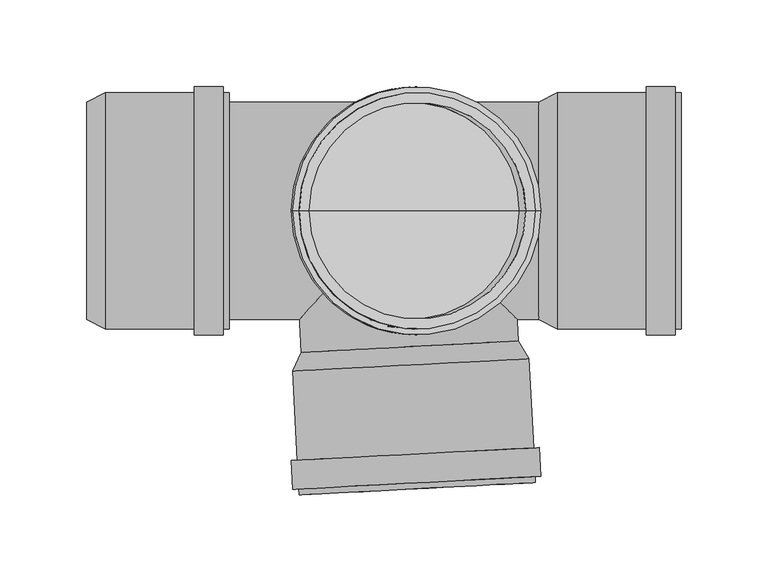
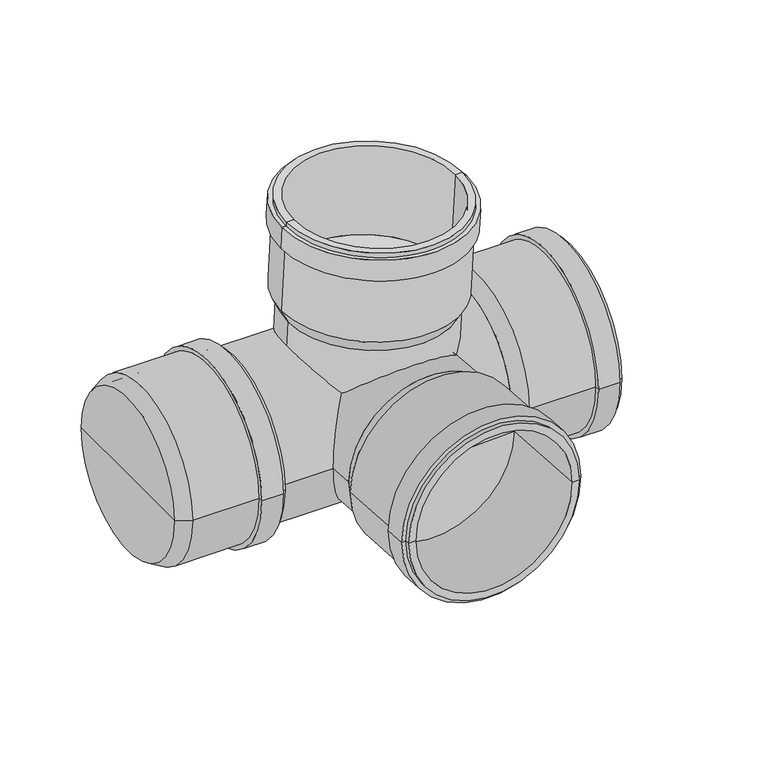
"""IFC4 building model written with IfcOpenShell, lengths in millimetres: pipe fitting geometry, pf_HTED : pf_HTED."""

from ifc_helpers import new_model, si_unit, point, frame, origin, origin_2d, place, context, project, spatial, polyline, circle_curve, trimmed, segment, composite_curve, outline, extrude, source, transform, mapped, element, save
from ifc_brep_helpers import plane_surface, cylinder_surface, revolved_surface, advanced_brep


def pipe_fitting_466a4f67(model_context):
    return source(origin(), model_context, "Body", "SolidModel", [
        advanced_brep(
        [(66.5174849, 0.0, 75.0215583), (-58.311207, 0.0, 81.5635528), (-63.3540048, 0.0, 92.3422443), (72.6593378, 0.0, 85.214087), (4.103139, 0.0, 78.2925555), (76.4013587, 0.0, 156.6160988), (-59.6119839, 0.0, 163.744256), (-54.0196585, 0.0, 163.4511746), (70.8090333, 0.0, 156.9091801), (76.2234164, 0.0, 153.2207583), (-59.7899262, 0.0, 160.3489156), (79.6187569, 0.0, 153.0428161), (-63.1852666, 0.0, 160.5268578), (78.74998, 0.0, 136.4655658), (-64.0540435, 0.0, 143.9496076), (75.3546396, 0.0, 136.6435081), (-60.6587031, 0.0, 143.7716653), (67.0670124, 0.0, 85.5071684), (-57.7616794, 0.0, 92.0491629), (4.6526665, 0.0, 88.7781656)],
        [
            (0, 1, circle_curve(frame((4.103139, 0.0, 78.2925555), z_axis=(0.052335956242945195, 0.0, 0.9986295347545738), x_axis=(-0.9986295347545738, 0.0, 0.052335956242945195)), 62.5)),
            (1, 2),
            (2, 3, circle_curve(frame((4.6526665, 0.0, 88.7781656), z_axis=(-0.052335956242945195, 0.0, -0.9986295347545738), x_axis=(-0.9986295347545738, 0.0, 0.052335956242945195)), 68.1)),
            (3, 0),
            (1, 0, circle_curve(frame((4.103139, 0.0, 78.2925555), z_axis=(0.052335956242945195, 0.0, 0.9986295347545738), x_axis=(-0.9986295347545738, 0.0, 0.052335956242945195)), 62.5)),
            (3, 2, circle_curve(frame((4.6526665, 0.0, 88.7781656), z_axis=(-0.052335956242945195, 0.0, -0.9986295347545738), x_axis=(-0.9986295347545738, 0.0, 0.052335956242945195)), 68.1)),
            (4, 1),
            (0, 4),
            (5, 6, circle_curve(frame((8.3946874, 0.0, 160.1801774), z_axis=(0.052335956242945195, 0.0, 0.9986295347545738), x_axis=(-0.9986295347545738, 0.0, 0.052335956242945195)), 68.1)),
            (6, 7),
            (7, 8, circle_curve(frame((8.3946874, 0.0, 160.1801774), z_axis=(-0.052335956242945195, 0.0, -0.9986295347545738), x_axis=(-0.9986295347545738, 0.0, 0.052335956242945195)), 62.5)),
            (8, 5),
            (6, 5, circle_curve(frame((8.3946874, 0.0, 160.1801774), z_axis=(0.052335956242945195, 0.0, 0.9986295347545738), x_axis=(-0.9986295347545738, 0.0, 0.052335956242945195)), 68.1)),
            (8, 7, circle_curve(frame((8.3946874, 0.0, 160.1801774), z_axis=(-0.052335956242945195, 0.0, -0.9986295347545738), x_axis=(-0.9986295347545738, 0.0, 0.052335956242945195)), 62.5)),
            (9, 10, circle_curve(frame((8.2167451, 0.0, 156.784837), z_axis=(0.052335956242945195, 0.0, 0.9986295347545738), x_axis=(-0.9986295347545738, 0.0, 0.052335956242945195)), 68.1)),
            (10, 6),
            (5, 9),
            (10, 9, circle_curve(frame((8.2167451, 0.0, 156.784837), z_axis=(0.052335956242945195, 0.0, 0.9986295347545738), x_axis=(-0.9986295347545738, 0.0, 0.052335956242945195)), 68.1)),
            (11, 12, circle_curve(frame((8.2167451, 0.0, 156.784837), z_axis=(0.052335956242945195, 0.0, 0.9986295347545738), x_axis=(-0.9986295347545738, 0.0, 0.052335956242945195)), 71.5)),
            (12, 10),
            (9, 11),
            (12, 11, circle_curve(frame((8.2167451, 0.0, 156.784837), z_axis=(0.052335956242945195, 0.0, 0.9986295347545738), x_axis=(-0.9986295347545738, 0.0, 0.052335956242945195)), 71.5)),
            (13, 14, circle_curve(frame((7.3479683, 0.0, 140.2075867), z_axis=(0.052335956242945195, 0.0, 0.9986295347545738), x_axis=(-0.9986295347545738, 0.0, 0.052335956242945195)), 71.5)),
            (14, 12),
            (11, 13),
            (14, 13, circle_curve(frame((7.3479683, 0.0, 140.2075867), z_axis=(0.052335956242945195, 0.0, 0.9986295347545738), x_axis=(-0.9986295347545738, 0.0, 0.052335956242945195)), 71.5)),
            (15, 16, circle_curve(frame((7.3479683, 0.0, 140.2075867), z_axis=(0.052335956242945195, 0.0, 0.9986295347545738), x_axis=(-0.9986295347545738, 0.0, 0.052335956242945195)), 68.1)),
            (16, 14),
            (13, 15),
            (16, 15, circle_curve(frame((7.3479683, 0.0, 140.2075867), z_axis=(0.052335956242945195, 0.0, 0.9986295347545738), x_axis=(-0.9986295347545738, 0.0, 0.052335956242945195)), 68.1)),
            (2, 16),
            (15, 3),
            (17, 18, circle_curve(frame((4.6526665, 0.0, 88.7781656), z_axis=(0.052335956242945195, 0.0, 0.9986295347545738), x_axis=(-0.9986295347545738, 0.0, 0.052335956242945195)), 62.5)),
            (18, 19),
            (19, 17),
            (18, 17, circle_curve(frame((4.6526665, 0.0, 88.7781656), z_axis=(0.052335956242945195, 0.0, 0.9986295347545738), x_axis=(-0.9986295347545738, 0.0, 0.052335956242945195)), 62.5)),
            (7, 18),
            (17, 8),
        ],
        [
            revolved_surface(polyline([(-63.3540048, 0.0, 92.3422443), (-58.311207, 0.0, 81.5635528)]), (4.103139, 0.0, 78.2925555), (-0.052335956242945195, 0.0, -0.9986295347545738)),
            plane_surface(frame((4.103139, 0.0, 78.2925555), z_axis=(-0.052335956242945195, 0.0, -0.9986295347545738), x_axis=(-0.9986295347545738, 0.0, 0.052335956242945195))),
            plane_surface(frame((8.3946874, 0.0, 160.1801774), z_axis=(0.052335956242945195, 0.0, 0.9986295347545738), x_axis=(-0.9986295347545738, 0.0, 0.052335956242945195))),
            cylinder_surface(frame((4.103139, 0.0, 78.2925555), z_axis=(-0.052335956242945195, 0.0, -0.9986295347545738), x_axis=(-0.9986295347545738, 0.0, 0.052335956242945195)), 68.1),
            plane_surface(frame((8.2167451, 0.0, 156.784837), z_axis=(0.052335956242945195, 0.0, 0.9986295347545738), x_axis=(-0.9986295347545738, 0.0, 0.052335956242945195))),
            cylinder_surface(frame((4.103139, 0.0, 78.2925555), z_axis=(-0.052335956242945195, 0.0, -0.9986295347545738), x_axis=(-0.9986295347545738, 0.0, 0.052335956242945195)), 71.5),
            plane_surface(frame((7.3479683, 0.0, 140.2075867), z_axis=(-0.052335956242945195, 0.0, -0.9986295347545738), x_axis=(-0.9986295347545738, 0.0, 0.052335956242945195))),
            plane_surface(frame((4.6526665, 0.0, 88.7781656), z_axis=(0.052335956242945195, 0.0, 0.9986295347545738), x_axis=(-0.9986295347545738, 0.0, 0.052335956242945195))),
            revolved_surface(polyline([(-57.76167938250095, 0.0, 92.04916286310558), (-54.01965850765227, 0.0, 163.45117466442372)]), (4.103139, 0.0, 78.2925555), (-0.052335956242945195, 0.0, -0.9986295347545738)),
        ],
        [
            (0, [[1, 2, 3, 4]]),
            (0, [[5, -4, 6, -2]]),
            (1, [[7, -1, 8]]),
            (1, [[-8, -5, -7]]),
            (2, [[9, 10, 11, 12]]),
            (2, [[13, -12, 14, -10]]),
            (3, [[15, 16, -9, 17]]),
            (3, [[18, -17, -13, -16]]),
            (4, [[19, 20, -15, 21]]),
            (4, [[22, -21, -18, -20]]),
            (5, [[23, 24, -19, 25]]),
            (5, [[26, -25, -22, -24]]),
            (6, [[27, 28, -23, 29]]),
            (6, [[30, -29, -26, -28]]),
            (3, [[-3, 31, -27, 32]]),
            (3, [[-6, -32, -30, -31]]),
            (7, [[33, 34, 35]]),
            (7, [[36, -35, -34]]),
            (8, [[-11, 37, -33, 38]]),
            (8, [[-14, -38, -36, -37]]),
        ],
    ),
        advanced_brep(
        [(-58.311207, -81.5635528, 0.0), (66.5174849, -75.0215583, 0.0), (72.6593378, -85.214087, 0.0), (-63.3540048, -92.3422443, 0.0), (4.103139, -78.2925555, 0.0), (-59.6119839, -163.744256, 0.0), (76.4013587, -156.6160988, 0.0), (70.8090333, -156.9091801, 0.0), (-54.0196585, -163.4511746, 0.0), (-59.7899262, -160.3489156, 0.0), (76.2234164, -153.2207583, 0.0), (-63.1852666, -160.5268578, 0.0), (79.6187569, -153.0428161, 0.0), (-64.0540435, -143.9496076, 0.0), (78.74998, -136.4655658, 0.0), (-60.6587031, -143.7716653, 0.0), (75.3546396, -136.6435081, 0.0), (-57.7616794, -92.0491629, 0.0), (67.0670124, -85.5071684, 0.0), (4.6526665, -88.7781656, 0.0)],
        [
            (0, 1, circle_curve(frame((4.103139, -78.2925555, 0.0), z_axis=(0.05233595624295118, -0.9986295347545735, 0.0), x_axis=(0.9986295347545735, 0.05233595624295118, 0.0)), 62.5)),
            (1, 2),
            (2, 3, circle_curve(frame((4.6526665, -88.7781656, 0.0), z_axis=(-0.05233595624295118, 0.9986295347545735, 0.0), x_axis=(0.9986295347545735, 0.05233595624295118, 0.0)), 68.1)),
            (3, 0),
            (1, 0, circle_curve(frame((4.103139, -78.2925555, 0.0), z_axis=(0.05233595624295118, -0.9986295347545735, 0.0), x_axis=(0.9986295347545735, 0.05233595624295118, 0.0)), 62.5)),
            (3, 2, circle_curve(frame((4.6526665, -88.7781656, 0.0), z_axis=(-0.05233595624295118, 0.9986295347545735, 0.0), x_axis=(0.9986295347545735, 0.05233595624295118, 0.0)), 68.1)),
            (4, 1),
            (0, 4),
            (5, 6, circle_curve(frame((8.3946874, -160.1801774, 0.0), z_axis=(0.05233595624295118, -0.9986295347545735, 0.0), x_axis=(0.9986295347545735, 0.05233595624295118, 0.0)), 68.1)),
            (6, 7),
            (7, 8, circle_curve(frame((8.3946874, -160.1801774, 0.0), z_axis=(-0.05233595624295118, 0.9986295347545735, 0.0), x_axis=(0.9986295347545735, 0.05233595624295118, 0.0)), 62.5)),
            (8, 5),
            (6, 5, circle_curve(frame((8.3946874, -160.1801774, 0.0), z_axis=(0.05233595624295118, -0.9986295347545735, 0.0), x_axis=(0.9986295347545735, 0.05233595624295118, 0.0)), 68.1)),
            (8, 7, circle_curve(frame((8.3946874, -160.1801774, 0.0), z_axis=(-0.05233595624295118, 0.9986295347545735, 0.0), x_axis=(0.9986295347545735, 0.05233595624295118, 0.0)), 62.5)),
            (9, 10, circle_curve(frame((8.2167451, -156.784837, 0.0), z_axis=(0.05233595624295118, -0.9986295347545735, 0.0), x_axis=(0.9986295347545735, 0.05233595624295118, 0.0)), 68.1)),
            (10, 6),
            (5, 9),
            (10, 9, circle_curve(frame((8.2167451, -156.784837, 0.0), z_axis=(0.05233595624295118, -0.9986295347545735, 0.0), x_axis=(0.9986295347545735, 0.05233595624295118, 0.0)), 68.1)),
            (11, 12, circle_curve(frame((8.2167451, -156.784837, 0.0), z_axis=(0.05233595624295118, -0.9986295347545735, 0.0), x_axis=(0.9986295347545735, 0.05233595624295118, 0.0)), 71.5)),
            (12, 10),
            (9, 11),
            (12, 11, circle_curve(frame((8.2167451, -156.784837, 0.0), z_axis=(0.05233595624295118, -0.9986295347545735, 0.0), x_axis=(0.9986295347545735, 0.05233595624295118, 0.0)), 71.5)),
            (13, 14, circle_curve(frame((7.3479683, -140.2075867, 0.0), z_axis=(0.05233595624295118, -0.9986295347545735, 0.0), x_axis=(0.9986295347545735, 0.05233595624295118, 0.0)), 71.5)),
            (14, 12),
            (11, 13),
            (14, 13, circle_curve(frame((7.3479683, -140.2075867, 0.0), z_axis=(0.05233595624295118, -0.9986295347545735, 0.0), x_axis=(0.9986295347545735, 0.05233595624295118, 0.0)), 71.5)),
            (15, 16, circle_curve(frame((7.3479683, -140.2075867, 0.0), z_axis=(0.05233595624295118, -0.9986295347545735, 0.0), x_axis=(0.9986295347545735, 0.05233595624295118, 0.0)), 68.1)),
            (16, 14),
            (13, 15),
            (16, 15, circle_curve(frame((7.3479683, -140.2075867, 0.0), z_axis=(0.05233595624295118, -0.9986295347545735, 0.0), x_axis=(0.9986295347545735, 0.05233595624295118, 0.0)), 68.1)),
            (2, 16),
            (15, 3),
            (17, 18, circle_curve(frame((4.6526665, -88.7781656, 0.0), z_axis=(0.05233595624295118, -0.9986295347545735, 0.0), x_axis=(0.9986295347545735, 0.05233595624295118, 0.0)), 62.5)),
            (18, 19),
            (19, 17),
            (18, 17, circle_curve(frame((4.6526665, -88.7781656, 0.0), z_axis=(0.05233595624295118, -0.9986295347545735, 0.0), x_axis=(0.9986295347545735, 0.05233595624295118, 0.0)), 62.5)),
            (7, 18),
            (17, 8),
        ],
        [
            revolved_surface(polyline([(72.6593378, -85.214087, 0.0), (66.5174849, -75.0215583, 0.0)]), (4.103139, -78.2925555, 0.0), (-0.05233595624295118, 0.9986295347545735, 0.0)),
            plane_surface(frame((4.103139, -78.2925555, 0.0), z_axis=(-0.05233595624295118, 0.9986295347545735, 0.0), x_axis=(0.9986295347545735, 0.05233595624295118, 0.0))),
            plane_surface(frame((8.3946874, -160.1801774, 0.0), z_axis=(0.05233595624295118, -0.9986295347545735, 0.0), x_axis=(0.9986295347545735, 0.05233595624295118, 0.0))),
            cylinder_surface(frame((4.103139, -78.2925555, 0.0), z_axis=(-0.05233595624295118, 0.9986295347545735, 0.0), x_axis=(0.9986295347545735, 0.05233595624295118, 0.0)), 68.1),
            plane_surface(frame((8.2167451, -156.784837, 0.0), z_axis=(0.05233595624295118, -0.9986295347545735, 0.0), x_axis=(0.9986295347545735, 0.05233595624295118, 0.0))),
            cylinder_surface(frame((4.103139, -78.2925555, 0.0), z_axis=(-0.05233595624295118, 0.9986295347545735, 0.0), x_axis=(0.9986295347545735, 0.05233595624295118, 0.0)), 71.5),
            plane_surface(frame((7.3479683, -140.2075867, 0.0), z_axis=(-0.05233595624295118, 0.9986295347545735, 0.0), x_axis=(0.9986295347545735, 0.05233595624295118, 0.0))),
            plane_surface(frame((4.6526665, -88.7781656, 0.0), z_axis=(0.05233595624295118, -0.9986295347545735, 0.0), x_axis=(0.9986295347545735, 0.05233595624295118, 0.0))),
            revolved_surface(polyline([(67.06701246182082, -85.50716833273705, 0.0), (70.80903333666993, -156.90918013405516, 0.0)]), (4.103139, -78.2925555, 0.0), (-0.05233595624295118, 0.9986295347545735, 0.0)),
        ],
        [
            (0, [[1, 2, 3, 4]]),
            (0, [[5, -4, 6, -2]]),
            (1, [[7, -1, 8]]),
            (1, [[-8, -5, -7]]),
            (2, [[9, 10, 11, 12]]),
            (2, [[13, -12, 14, -10]]),
            (3, [[15, 16, -9, 17]]),
            (3, [[18, -17, -13, -16]]),
            (4, [[19, 20, -15, 21]]),
            (4, [[22, -21, -18, -20]]),
            (5, [[23, 24, -19, 25]]),
            (5, [[26, -25, -22, -24]]),
            (6, [[27, 28, -23, 29]]),
            (6, [[30, -29, -26, -28]]),
            (3, [[-3, 31, -27, 32]]),
            (3, [[-6, -32, -30, -31]]),
            (7, [[33, 34, 35]]),
            (7, [[36, -35, -34]]),
            (8, [[-11, 37, -33, 38]]),
            (8, [[-14, -38, -36, -37]]),
        ],
    ),
        advanced_brep(
        [(78.4, -62.5, 0.0), (78.4, 62.5, 0.0), (88.9, 68.1, 0.0), (88.9, -68.1, 0.0), (78.4, 0.0, 0.0), (160.4, -68.1, 0.0), (160.4, 68.1, 0.0), (160.4, 62.5, 0.0), (160.4, -62.5, 0.0), (157.0, -68.1, 0.0), (157.0, 68.1, 0.0), (157.0, -71.5, 0.0), (157.0, 71.5, 0.0), (140.4, -71.5, 0.0), (140.4, 71.5, 0.0), (140.4, -68.1, 0.0), (140.4, 68.1, 0.0), (88.9, -62.5, 0.0), (88.9, 62.5, 0.0), (88.9, 0.0, 0.0)],
        [
            (0, 1, circle_curve(frame((78.4, 0.0, 0.0), z_axis=(1.0, 0.0, 0.0), x_axis=(0.0, 1.0, 0.0)), 62.5)),
            (1, 2),
            (2, 3, circle_curve(frame((88.9, 0.0, 0.0), z_axis=(-1.0, 0.0, 0.0), x_axis=(0.0, 1.0, 0.0)), 68.1)),
            (3, 0),
            (1, 0, circle_curve(frame((78.4, 0.0, 0.0), z_axis=(1.0, 0.0, 0.0), x_axis=(0.0, 1.0, 0.0)), 62.5)),
            (3, 2, circle_curve(frame((88.9, 0.0, 0.0), z_axis=(-1.0, 0.0, 0.0), x_axis=(0.0, 1.0, 0.0)), 68.1)),
            (4, 1),
            (0, 4),
            (5, 6, circle_curve(frame((160.4, 0.0, 0.0), z_axis=(1.0, 0.0, 0.0), x_axis=(0.0, 1.0, 0.0)), 68.1)),
            (6, 7),
            (7, 8, circle_curve(frame((160.4, 0.0, 0.0), z_axis=(-1.0, 0.0, 0.0), x_axis=(0.0, 1.0, 0.0)), 62.5)),
            (8, 5),
            (6, 5, circle_curve(frame((160.4, 0.0, 0.0), z_axis=(1.0, 0.0, 0.0), x_axis=(0.0, 1.0, 0.0)), 68.1)),
            (8, 7, circle_curve(frame((160.4, 0.0, 0.0), z_axis=(-1.0, 0.0, 0.0), x_axis=(0.0, 1.0, 0.0)), 62.5)),
            (9, 10, circle_curve(frame((157.0, 0.0, 0.0), z_axis=(1.0, 0.0, 0.0), x_axis=(0.0, 1.0, 0.0)), 68.1)),
            (10, 6),
            (5, 9),
            (10, 9, circle_curve(frame((157.0, 0.0, 0.0), z_axis=(1.0, 0.0, 0.0), x_axis=(0.0, 1.0, 0.0)), 68.1)),
            (11, 12, circle_curve(frame((157.0, 0.0, 0.0), z_axis=(1.0, 0.0, 0.0), x_axis=(0.0, 1.0, 0.0)), 71.5)),
            (12, 10),
            (9, 11),
            (12, 11, circle_curve(frame((157.0, 0.0, 0.0), z_axis=(1.0, 0.0, 0.0), x_axis=(0.0, 1.0, 0.0)), 71.5)),
            (13, 14, circle_curve(frame((140.4, 0.0, 0.0), z_axis=(1.0, 0.0, 0.0), x_axis=(0.0, 1.0, 0.0)), 71.5)),
            (14, 12),
            (11, 13),
            (14, 13, circle_curve(frame((140.4, 0.0, 0.0), z_axis=(1.0, 0.0, 0.0), x_axis=(0.0, 1.0, 0.0)), 71.5)),
            (15, 16, circle_curve(frame((140.4, 0.0, 0.0), z_axis=(1.0, 0.0, 0.0), x_axis=(0.0, 1.0, 0.0)), 68.1)),
            (16, 14),
            (13, 15),
            (16, 15, circle_curve(frame((140.4, 0.0, 0.0), z_axis=(1.0, 0.0, 0.0), x_axis=(0.0, 1.0, 0.0)), 68.1)),
            (2, 16),
            (15, 3),
            (17, 18, circle_curve(frame((88.9, 0.0, 0.0), z_axis=(1.0, 0.0, 0.0), x_axis=(0.0, 1.0, 0.0)), 62.5)),
            (18, 19),
            (19, 17),
            (18, 17, circle_curve(frame((88.9, 0.0, 0.0), z_axis=(1.0, 0.0, 0.0), x_axis=(0.0, 1.0, 0.0)), 62.5)),
            (7, 18),
            (17, 8),
        ],
        [
            revolved_surface(polyline([(88.9, 68.1, 0.0), (78.4, 62.5, 0.0)]), (78.4, 0.0, 0.0), (-1.0, 0.0, 0.0)),
            plane_surface(frame((78.4, 0.0, 0.0), z_axis=(-1.0, 0.0, 0.0), x_axis=(0.0, 1.0, 0.0))),
            plane_surface(frame((160.4, 0.0, 0.0), z_axis=(1.0, 0.0, 0.0), x_axis=(0.0, 1.0, 0.0))),
            cylinder_surface(frame((78.4, 0.0, 0.0), z_axis=(-1.0, 0.0, 0.0), x_axis=(0.0, 1.0, 0.0)), 68.1),
            plane_surface(frame((157.0, 0.0, 0.0), z_axis=(1.0, 0.0, 0.0), x_axis=(0.0, 1.0, 0.0))),
            cylinder_surface(frame((78.4, 0.0, 0.0), z_axis=(-1.0, 0.0, 0.0), x_axis=(0.0, 1.0, 0.0)), 71.5),
            plane_surface(frame((140.4, 0.0, 0.0), z_axis=(-1.0, 0.0, 0.0), x_axis=(0.0, 1.0, 0.0))),
            plane_surface(frame((88.9, 0.0, 0.0), z_axis=(1.0, 0.0, 0.0), x_axis=(0.0, 1.0, 0.0))),
            revolved_surface(polyline([(88.9, 62.5, 0.0), (160.4, 62.5, 0.0)]), (78.4, 0.0, 0.0), (-1.0, 0.0, 0.0)),
        ],
        [
            (0, [[1, 2, 3, 4]]),
            (0, [[5, -4, 6, -2]]),
            (1, [[7, -1, 8]]),
            (1, [[-8, -5, -7]]),
            (2, [[9, 10, 11, 12]]),
            (2, [[13, -12, 14, -10]]),
            (3, [[15, 16, -9, 17]]),
            (3, [[18, -17, -13, -16]]),
            (4, [[19, 20, -15, 21]]),
            (4, [[22, -21, -18, -20]]),
            (5, [[23, 24, -19, 25]]),
            (5, [[26, -25, -22, -24]]),
            (6, [[27, 28, -23, 29]]),
            (6, [[30, -29, -26, -28]]),
            (3, [[-3, 31, -27, 32]]),
            (3, [[-6, -32, -30, -31]]),
            (7, [[33, 34, 35]]),
            (7, [[36, -35, -34]]),
            (8, [[-11, 37, -33, 38]]),
            (8, [[-14, -38, -36, -37]]),
        ],
    ),
        advanced_brep(
        [(-181.9, -62.5, 0.0), (-181.9, 62.5, 0.0), (-171.4, 68.1, 0.0), (-171.4, -68.1, 0.0), (-181.9, 0.0, 0.0), (-99.9, -68.1, 0.0), (-99.9, 68.1, 0.0), (-99.9, 62.5, 0.0), (-99.9, -62.5, 0.0), (-103.3, -68.1, 0.0), (-103.3, 68.1, 0.0), (-103.3, -71.5, 0.0), (-103.3, 71.5, 0.0), (-119.9, -71.5, 0.0), (-119.9, 71.5, 0.0), (-119.9, -68.1, 0.0), (-119.9, 68.1, 0.0), (-171.4, -62.5, 0.0), (-171.4, 62.5, 0.0), (-171.4, 0.0, 0.0)],
        [
            (0, 1, circle_curve(frame((-181.9, 0.0, 0.0), z_axis=(1.0, 0.0, 0.0), x_axis=(0.0, 1.0, 0.0)), 62.5)),
            (1, 2),
            (2, 3, circle_curve(frame((-171.4, 0.0, 0.0), z_axis=(-1.0, 0.0, 0.0), x_axis=(0.0, 1.0, 0.0)), 68.1)),
            (3, 0),
            (1, 0, circle_curve(frame((-181.9, 0.0, 0.0), z_axis=(1.0, 0.0, 0.0), x_axis=(0.0, 1.0, 0.0)), 62.5)),
            (3, 2, circle_curve(frame((-171.4, 0.0, 0.0), z_axis=(-1.0, 0.0, 0.0), x_axis=(0.0, 1.0, 0.0)), 68.1)),
            (4, 1),
            (0, 4),
            (5, 6, circle_curve(frame((-99.9, 0.0, 0.0), z_axis=(1.0, 0.0, 0.0), x_axis=(0.0, 1.0, 0.0)), 68.1)),
            (6, 7),
            (7, 8, circle_curve(frame((-99.9, 0.0, 0.0), z_axis=(-1.0, 0.0, 0.0), x_axis=(0.0, 1.0, 0.0)), 62.5)),
            (8, 5),
            (6, 5, circle_curve(frame((-99.9, 0.0, 0.0), z_axis=(1.0, 0.0, 0.0), x_axis=(0.0, 1.0, 0.0)), 68.1)),
            (8, 7, circle_curve(frame((-99.9, 0.0, 0.0), z_axis=(-1.0, 0.0, 0.0), x_axis=(0.0, 1.0, 0.0)), 62.5)),
            (9, 10, circle_curve(frame((-103.3, 0.0, 0.0), z_axis=(1.0, 0.0, 0.0), x_axis=(0.0, 1.0, 0.0)), 68.1)),
            (10, 6),
            (5, 9),
            (10, 9, circle_curve(frame((-103.3, 0.0, 0.0), z_axis=(1.0, 0.0, 0.0), x_axis=(0.0, 1.0, 0.0)), 68.1)),
            (11, 12, circle_curve(frame((-103.3, 0.0, 0.0), z_axis=(1.0, 0.0, 0.0), x_axis=(0.0, 1.0, 0.0)), 71.5)),
            (12, 10),
            (9, 11),
            (12, 11, circle_curve(frame((-103.3, 0.0, 0.0), z_axis=(1.0, 0.0, 0.0), x_axis=(0.0, 1.0, 0.0)), 71.5)),
            (13, 14, circle_curve(frame((-119.9, 0.0, 0.0), z_axis=(1.0, 0.0, 0.0), x_axis=(0.0, 1.0, 0.0)), 71.5)),
            (14, 12),
            (11, 13),
            (14, 13, circle_curve(frame((-119.9, 0.0, 0.0), z_axis=(1.0, 0.0, 0.0), x_axis=(0.0, 1.0, 0.0)), 71.5)),
            (15, 16, circle_curve(frame((-119.9, 0.0, 0.0), z_axis=(1.0, 0.0, 0.0), x_axis=(0.0, 1.0, 0.0)), 68.1)),
            (16, 14),
            (13, 15),
            (16, 15, circle_curve(frame((-119.9, 0.0, 0.0), z_axis=(1.0, 0.0, 0.0), x_axis=(0.0, 1.0, 0.0)), 68.1)),
            (2, 16),
            (15, 3),
            (17, 18, circle_curve(frame((-171.4, 0.0, 0.0), z_axis=(1.0, 0.0, 0.0), x_axis=(0.0, 1.0, 0.0)), 62.5)),
            (18, 19),
            (19, 17),
            (18, 17, circle_curve(frame((-171.4, 0.0, 0.0), z_axis=(1.0, 0.0, 0.0), x_axis=(0.0, 1.0, 0.0)), 62.5)),
            (7, 18),
            (17, 8),
        ],
        [
            revolved_surface(polyline([(-171.4, 68.1, 0.0), (-181.9, 62.5, 0.0)]), (-181.9, 0.0, 0.0), (-1.0, 0.0, 0.0)),
            plane_surface(frame((-181.9, 0.0, 0.0), z_axis=(-1.0, 0.0, 0.0), x_axis=(0.0, 1.0, 0.0))),
            plane_surface(frame((-99.9, 0.0, 0.0), z_axis=(1.0, 0.0, 0.0), x_axis=(0.0, 1.0, 0.0))),
            cylinder_surface(frame((-181.9, 0.0, 0.0), z_axis=(-1.0, 0.0, 0.0), x_axis=(0.0, 1.0, 0.0)), 68.1),
            plane_surface(frame((-103.3, 0.0, 0.0), z_axis=(1.0, 0.0, 0.0), x_axis=(0.0, 1.0, 0.0))),
            cylinder_surface(frame((-181.9, 0.0, 0.0), z_axis=(-1.0, 0.0, 0.0), x_axis=(0.0, 1.0, 0.0)), 71.5),
            plane_surface(frame((-119.9, 0.0, 0.0), z_axis=(-1.0, 0.0, 0.0), x_axis=(0.0, 1.0, 0.0))),
            plane_surface(frame((-171.4, 0.0, 0.0), z_axis=(1.0, 0.0, 0.0), x_axis=(0.0, 1.0, 0.0))),
            revolved_surface(polyline([(-171.4, 62.5, 0.0), (-99.9, 62.5, 0.0)]), (-181.9, 0.0, 0.0), (-1.0, 0.0, 0.0)),
        ],
        [
            (0, [[1, 2, 3, 4]]),
            (0, [[5, -4, 6, -2]]),
            (1, [[7, -1, 8]]),
            (1, [[-8, -5, -7]]),
            (2, [[9, 10, 11, 12]]),
            (2, [[13, -12, 14, -10]]),
            (3, [[15, 16, -9, 17]]),
            (3, [[18, -17, -13, -16]]),
            (4, [[19, 20, -15, 21]]),
            (4, [[22, -21, -18, -20]]),
            (5, [[23, 24, -19, 25]]),
            (5, [[26, -25, -22, -24]]),
            (6, [[27, 28, -23, 29]]),
            (6, [[30, -29, -26, -28]]),
            (3, [[-3, 31, -27, 32]]),
            (3, [[-6, -32, -30, -31]]),
            (7, [[33, 34, 35]]),
            (7, [[36, -35, -34]]),
            (8, [[-11, 37, -33, 38]]),
            (8, [[-14, -38, -36, -37]]),
        ],
    ),
        extrude(outline(composite_curve([segment(trimmed(circle_curve(origin_2d(), 62.5), [point((0.0, 62.5))], [point((0.0, -62.5))], False, "CARTESIAN"), True, "CONTINUOUS"), segment(trimmed(circle_curve(origin_2d(), 62.5), [point((0.0, -62.5))], [point((0.0, 62.5))], False, "CARTESIAN"), True, "CONTINUOUS")], self_intersect=False)), frame((0.0, 0.0, 0.0), z_axis=(0.0523359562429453, 0.0, 0.9986295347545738), x_axis=(0.0, -1.0, 0.0)), (0.0, 0.0, 1.0), 78.4),
        extrude(outline(composite_curve([segment(trimmed(circle_curve(origin_2d(), 62.5), [point((0.0, -62.5000001))], [point((0.0, 62.5))], False, "CARTESIAN"), True, "CONTINUOUS"), segment(trimmed(circle_curve(origin_2d(), 62.5), [point((0.0, 62.5))], [point((0.0, -62.5000001))], False, "CARTESIAN"), True, "CONTINUOUS")], self_intersect=False)), frame((4.103139, -78.2925555, 0.0), z_axis=(-0.0523359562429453, 0.9986295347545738, 0.0), x_axis=(0.0, 0.0, 1.0)), (0.0, 0.0, 1.0), 78.4),
        extrude(outline(composite_curve([segment(trimmed(circle_curve(origin_2d(), 62.5), [point((-62.5, 0.0))], [point((62.5, 0.0))], False, "CARTESIAN"), True, "CONTINUOUS"), segment(trimmed(circle_curve(origin_2d(), 62.5), [point((62.5, 0.0))], [point((-62.5, 0.0))], False, "CARTESIAN"), True, "CONTINUOUS")], self_intersect=False)), frame((-171.4, 0.0, 0.0), z_axis=(1.0, 0.0, 0.0), x_axis=(0.0, 1.0, 0.0)), (0.0, 0.0, 1.0), 249.8),
    ])


if __name__ == "__main__":
    model = new_model("IFC4")
    model_context = context("Model", 3, world=origin())
    ifc_project = project(units=[si_unit("LENGTHUNIT", "METRE", prefix="MILLI")], contexts=[model_context])
    site = spatial("IfcSite", under=ifc_project)
    building = spatial("IfcBuilding", under=site)
    placement = place(None, origin())
    pipe_fitting_shape = pipe_fitting_466a4f67(model_context)
    element("IfcPipeFitting", 1, ObjectType="pf_HTED : pf_HTED", at=placement, inside=building, context=model_context, shape_type="MappedRepresentation", body=[
        mapped(pipe_fitting_shape, transform((0.0, 0.0, 0.0), x_axis=(1.0, 0.0, 0.0), y_axis=(0.0, 1.0, 0.0), z_axis=(0.0, 0.0, 1.0))),
    ])
    save(model, "model.ifc")
